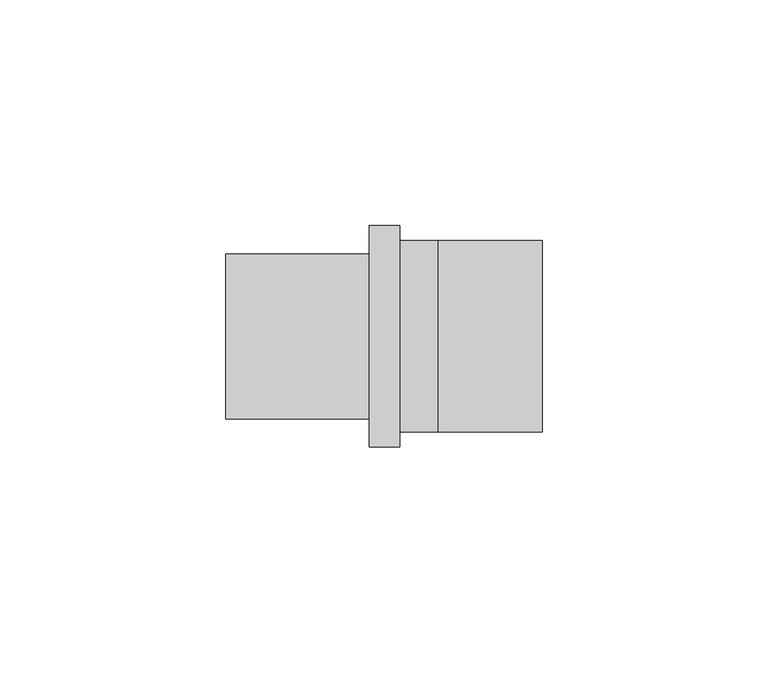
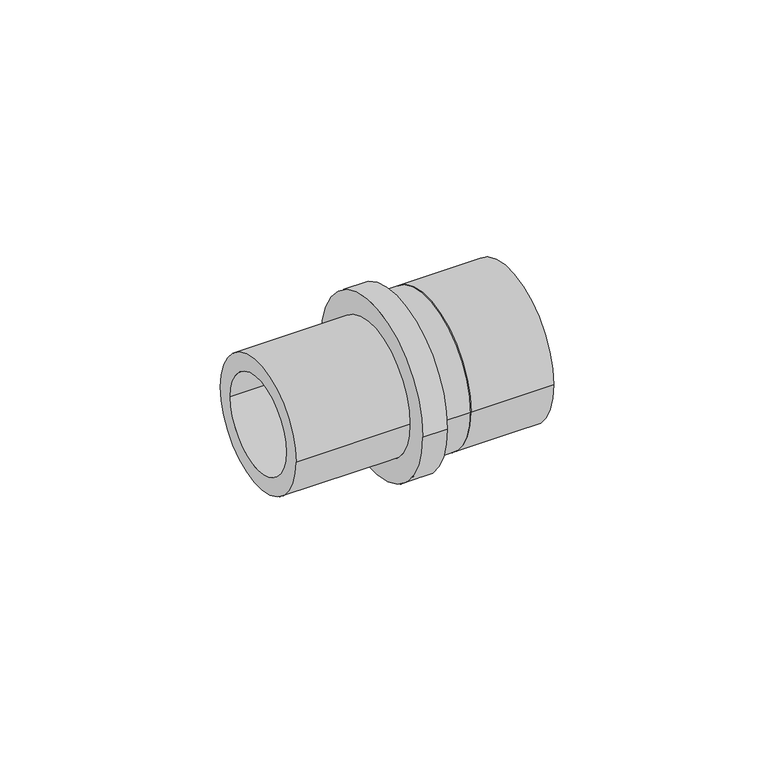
"""IFC4 building model written with IfcOpenShell, lengths in millimetres: pipe fitting geometry, Adapter with welding end : A welding LX."""

from ifc_helpers import new_model, si_unit, point, frame, origin, origin_2d, place, context, project, spatial, polyline, circle_curve, trimmed, segment, composite_curve, outline, extrude, source, transform, mapped, element, save
from ifc_brep_helpers import plane_surface, cylinder_surface, revolved_surface, advanced_brep


def pipe_fitting_184ea8aa(model_context):
    return source(origin(), model_context, "Body", "SolidModel", [
        extrude(outline(composite_curve([segment(trimmed(circle_curve(origin_2d(), 21.2), [point((-21.2, 0.0))], [point((21.2, 0.0))], False, "CARTESIAN"), True, "CONTINUOUS"), segment(trimmed(circle_curve(origin_2d(), 21.2), [point((21.2, 0.0))], [point((-21.2, 0.0))], False, "CARTESIAN"), True, "CONTINUOUS")], self_intersect=False), holes=[composite_curve([segment(trimmed(circle_curve(origin_2d(), 18.6), [point((18.6, 0.0))], [point((-18.6, 0.0))], True, "CARTESIAN"), True, "CONTINUOUS"), segment(trimmed(circle_curve(origin_2d(), 18.6), [point((-18.6, 0.0))], [point((18.6, 0.0))], True, "CARTESIAN"), True, "CONTINUOUS")], self_intersect=False)]), frame((0.0, 0.0, 0.0), z_axis=(1.0, 0.0, 0.0), x_axis=(0.0, 1.0, 0.0)), (0.0, 0.0, 1.0), 23.0),
        advanced_brep(
        [(0.0, 21.2, 0.0), (0.0, -21.2, 0.0), (-8.5, -21.2, 0.0), (-8.5, 21.2, 0.0), (-8.5, 18.6, 0.0), (-8.5, -18.6, 0.0), (0.0, -18.6, 0.0), (0.0, 18.6, 0.0), (-47.0, 13.45, 0.0), (-47.0, -13.45, 0.0), (-8.5, -13.45, 0.0), (-8.5, 13.45, 0.0), (-15.3, 18.25, 0.0), (-15.3, -18.25, 0.0), (-47.0, -18.25, 0.0), (-47.0, 18.25, 0.0), (-8.5, 24.5, 0.0), (-8.5, -24.5, 0.0), (-15.3, -24.5, 0.0), (-15.3, 24.5, 0.0)],
        [
            (0, 1, circle_curve(frame((0.0, 0.0, 0.0), z_axis=(-1.0, 0.0, 0.0), x_axis=(0.0, -1.0, 0.0)), 21.2)),
            (1, 2),
            (2, 3, circle_curve(frame((-8.5, 0.0, 0.0), z_axis=(1.0, 0.0, 0.0), x_axis=(0.0, -1.0, 0.0)), 21.2)),
            (3, 0),
            (4, 5, circle_curve(frame((-8.5, 0.0, 0.0), z_axis=(-1.0, 0.0, 0.0), x_axis=(0.0, -1.0, 0.0)), 18.6)),
            (5, 6),
            (6, 7, circle_curve(frame((0.0, 0.0, 0.0), z_axis=(1.0, 0.0, 0.0), x_axis=(0.0, -1.0, 0.0)), 18.6)),
            (7, 4),
            (8, 9, circle_curve(frame((-47.0, 0.0, 0.0), z_axis=(-1.0, 0.0, 0.0), x_axis=(0.0, -1.0, 0.0)), 13.45)),
            (9, 10),
            (10, 11, circle_curve(frame((-8.5, 0.0, 0.0), z_axis=(1.0, 0.0, 0.0), x_axis=(0.0, -1.0, 0.0)), 13.45)),
            (11, 8),
            (12, 13, circle_curve(frame((-15.3, 0.0, 0.0), z_axis=(-1.0, 0.0, 0.0), x_axis=(0.0, -1.0, 0.0)), 18.25)),
            (13, 14),
            (14, 15, circle_curve(frame((-47.0, 0.0, 0.0), z_axis=(1.0, 0.0, 0.0), x_axis=(0.0, -1.0, 0.0)), 18.25)),
            (15, 12),
            (16, 17, circle_curve(frame((-8.5, 0.0, 0.0), z_axis=(-1.0, 0.0, 0.0), x_axis=(0.0, -1.0, 0.0)), 24.5)),
            (17, 18),
            (18, 19, circle_curve(frame((-15.3, 0.0, 0.0), z_axis=(1.0, 0.0, 0.0), x_axis=(0.0, -1.0, 0.0)), 24.5)),
            (19, 16),
            (16, 17, circle_curve(frame((-8.5, 0.0, 0.0), z_axis=(1.0, 0.0, 0.0), x_axis=(0.0, 1.0, 0.0)), 24.5)),
            (2, 3, circle_curve(frame((-8.5, 0.0, 0.0), z_axis=(-1.0, 0.0, 0.0), x_axis=(0.0, 1.0, 0.0)), 21.2)),
            (1, 0, circle_curve(frame((0.0, 0.0, 0.0), z_axis=(-1.0, 0.0, 0.0), x_axis=(0.0, 1.0, 0.0)), 21.2)),
            (6, 7, circle_curve(frame((0.0, 0.0, 0.0), z_axis=(-1.0, 0.0, 0.0), x_axis=(0.0, 1.0, 0.0)), 18.6)),
            (5, 4, circle_curve(frame((-8.5, 0.0, 0.0), z_axis=(-1.0, 0.0, 0.0), x_axis=(0.0, 1.0, 0.0)), 18.6)),
            (10, 11, circle_curve(frame((-8.5, 0.0, 0.0), z_axis=(-1.0, 0.0, 0.0), x_axis=(0.0, 1.0, 0.0)), 13.45)),
            (9, 8, circle_curve(frame((-47.0, 0.0, 0.0), z_axis=(-1.0, 0.0, 0.0), x_axis=(0.0, 1.0, 0.0)), 13.45)),
            (14, 15, circle_curve(frame((-47.0, 0.0, 0.0), z_axis=(-1.0, 0.0, 0.0), x_axis=(0.0, 1.0, 0.0)), 18.25)),
            (13, 12, circle_curve(frame((-15.3, 0.0, 0.0), z_axis=(-1.0, 0.0, 0.0), x_axis=(0.0, 1.0, 0.0)), 18.25)),
            (18, 19, circle_curve(frame((-15.3, 0.0, 0.0), z_axis=(-1.0, 0.0, 0.0), x_axis=(0.0, 1.0, 0.0)), 24.5)),
        ],
        [
            cylinder_surface(frame((0.0, 0.0, 0.0), z_axis=(1.0, 0.0, 0.0), x_axis=(0.0, -1.0, 0.0)), 21.2),
            revolved_surface(polyline([(0.0, -18.6, 0.0), (-8.5, -18.6, 0.0)]), (0.0, 0.0, 0.0), (1.0, 0.0, 0.0)),
            revolved_surface(polyline([(-8.5, -13.45, 0.0), (-47.0, -13.45, 0.0)]), (0.0, 0.0, 0.0), (1.0, 0.0, 0.0)),
            cylinder_surface(frame((0.0, 0.0, 0.0), z_axis=(1.0, 0.0, 0.0), x_axis=(0.0, -1.0, 0.0)), 18.25),
            cylinder_surface(frame((0.0, 0.0, 0.0), z_axis=(1.0, 0.0, 0.0), x_axis=(0.0, -1.0, 0.0)), 24.5),
            plane_surface(frame((-8.5, 0.0, 0.0), z_axis=(1.0, 0.0, 0.0), x_axis=(0.0, 1.0, 0.0))),
            cylinder_surface(frame((0.0, 0.0, 0.0), z_axis=(1.0, 0.0, 0.0), x_axis=(0.0, 1.0, 0.0)), 21.2),
            plane_surface(frame((0.0, 0.0, 0.0), z_axis=(1.0, 0.0, 0.0), x_axis=(0.0, 1.0, 0.0))),
            revolved_surface(polyline([(0.0, 18.6, 0.0), (-8.5, 18.6, 0.0)]), (0.0, 0.0, 0.0), (1.0, 0.0, 0.0)),
            revolved_surface(polyline([(-8.5, 13.45, 0.0), (-47.0, 13.45, 0.0)]), (0.0, 0.0, 0.0), (1.0, 0.0, 0.0)),
            plane_surface(frame((-47.0, 0.0, 0.0), z_axis=(-1.0, 0.0, 0.0), x_axis=(0.0, 1.0, 0.0))),
            cylinder_surface(frame((0.0, 0.0, 0.0), z_axis=(1.0, 0.0, 0.0), x_axis=(0.0, 1.0, 0.0)), 18.25),
            plane_surface(frame((-15.3, 0.0, 0.0), z_axis=(-1.0, 0.0, 0.0), x_axis=(0.0, 1.0, 0.0))),
            cylinder_surface(frame((0.0, 0.0, 0.0), z_axis=(1.0, 0.0, 0.0), x_axis=(0.0, 1.0, 0.0)), 24.5),
        ],
        [
            (0, [[1, 2, 3, 4]]),
            (1, [[5, 6, 7, 8]]),
            (2, [[9, 10, 11, 12]]),
            (3, [[13, 14, 15, 16]]),
            (4, [[17, 18, 19, 20]]),
            (5, [[21, -17], [22, -3]]),
            (6, [[23, -4, -22, -2]]),
            (7, [[-23, -1], [24, -7]]),
            (8, [[25, -8, -24, -6]]),
            (5, [[-25, -5], [26, -11]]),
            (9, [[27, -12, -26, -10]]),
            (10, [[28, -15], [-27, -9]]),
            (11, [[29, -16, -28, -14]]),
            (12, [[30, -19], [-29, -13]]),
            (13, [[-21, -20, -30, -18]]),
        ],
    ),
    ])


if __name__ == "__main__":
    model = new_model("IFC4")
    model_context = context("Model", 3, world=origin())
    ifc_project = project(units=[si_unit("LENGTHUNIT", "METRE", prefix="MILLI")], contexts=[model_context])
    site = spatial("IfcSite", under=ifc_project)
    building = spatial("IfcBuilding", under=site)
    placement = place(None, origin())
    pipe_fitting_shape = pipe_fitting_184ea8aa(model_context)
    element("IfcPipeFitting", 1, ObjectType="Adapter with welding end : A welding LX", at=placement, inside=building, context=model_context, shape_type="MappedRepresentation", body=[
        mapped(pipe_fitting_shape, transform((0.0, 0.0, 0.0), x_axis=(1.0, 0.0, 0.0), y_axis=(0.0, 1.0, 0.0), z_axis=(0.0, 0.0, 1.0))),
    ])
    save(model, "model.ifc")
